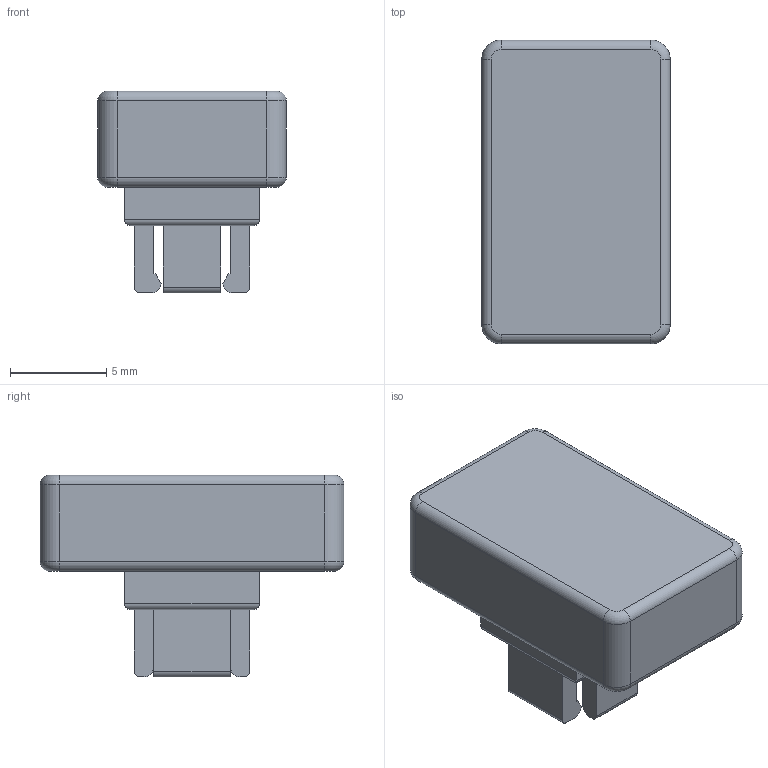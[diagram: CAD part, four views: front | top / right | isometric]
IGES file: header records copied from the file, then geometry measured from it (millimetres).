
Global section: file name: No Iges File Name specified; native system: Autodesk Inventor 2009; preprocessor: AutoDesk Inventor Iges Exporter R2009; author: hide; date: 20090826.065033; units: millimetre
Bounding box: 9.8 x 15.8 x 10.5 mm (x, y, z)
Volume: 774.4 mm3; surface area: 878.9 mm2
Topology: 1 solids, 1 shells, 93 faces, 227 edges, 142 vertices
Faces by surface type: plane 47, cylinder 34, torus 8, bspline 4
